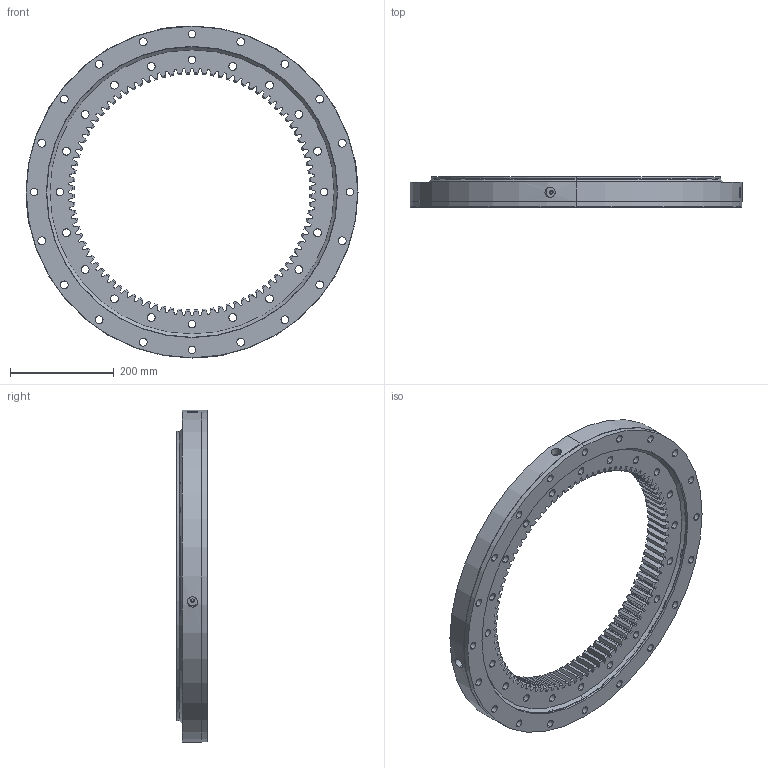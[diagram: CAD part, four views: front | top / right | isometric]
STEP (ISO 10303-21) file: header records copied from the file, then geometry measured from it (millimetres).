
FILE_DESCRIPTION (( 'STEP AP214' ), '1' );
FILE_NAME ('SM2116-1-0641AA.STEP', '2022-11-24T07:25:45', ( '' ), ( '' ), 'SwSTEP 2.0', 'SolidWorks 2020', '' );
FILE_SCHEMA (( 'AUTOMOTIVE_DESIGN' ));
Length unit declared in the file: millimetre
Products named in the file (1): SM2116-1-0641AA
Bounding box: 641 x 58 x 641 mm (x, y, z)
Volume: 6823161.8 mm3; surface area: 942633.7 mm2
Topology: 4 solids, 4 shells, 798 faces, 2326 edges, 1548 vertices
Faces by surface type: plane 388, cylinder 216, cone 194
Entity records: 27615 total; most frequent: CARTESIAN_POINT 6569, ORIENTED_EDGE 4652, DIRECTION 4060, EDGE_CURVE 2326, VERTEX_POINT 1548, AXIS2_PLACEMENT_3D 1411, VECTOR 1238, LINE 1238
